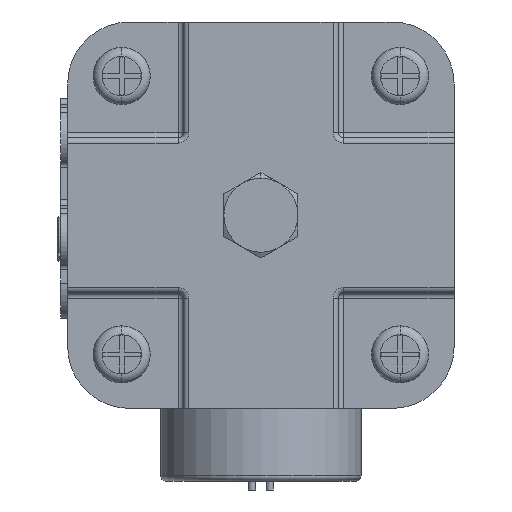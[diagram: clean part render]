
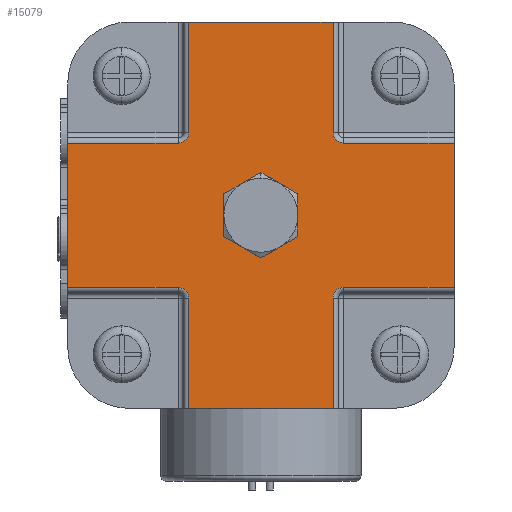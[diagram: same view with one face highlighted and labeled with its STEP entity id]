
A CAD part, front view. The second image highlights one B-rep face of the part: STEP entity #15079.
In plain terms, the highlighted planar face has unit normal (0, -1, 0).
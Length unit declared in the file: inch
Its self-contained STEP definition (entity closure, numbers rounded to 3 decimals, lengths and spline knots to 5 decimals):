
#3364=DIRECTION('',(1.,0.,0.));
#3365=VECTOR('',#3364,0.814);
#3366=CARTESIAN_POINT('',(-0.407,-4.043,1.09));
#3367=LINE('',#3366,#3365);
#3371=DIRECTION('',(0.,0.,-1.));
#3372=VECTOR('',#3371,0.623);
#3373=CARTESIAN_POINT('',(0.407,-4.043,1.09));
#3374=LINE('',#3373,#3372);
#3378=DIRECTION('',(1.,0.,0.));
#3379=VECTOR('',#3378,0.623);
#3380=CARTESIAN_POINT('',(0.467,-4.043,0.407));
#3381=LINE('',#3380,#3379);
#3385=DIRECTION('',(0.,0.,-1.));
#3386=VECTOR('',#3385,0.814);
#3387=CARTESIAN_POINT('',(1.09,-4.043,0.407));
#3388=LINE('',#3387,#3386);
#3392=DIRECTION('',(-1.,0.,0.));
#3393=VECTOR('',#3392,0.623);
#3394=CARTESIAN_POINT('',(1.09,-4.043,-0.407));
#3395=LINE('',#3394,#3393);
#3399=DIRECTION('',(0.,0.,-1.));
#3400=VECTOR('',#3399,0.623);
#3401=CARTESIAN_POINT('',(0.407,-4.043,-0.467));
#3402=LINE('',#3401,#3400);
#3406=DIRECTION('',(-1.,0.,0.));
#3407=VECTOR('',#3406,0.814);
#3408=CARTESIAN_POINT('',(0.407,-4.043,-1.09));
#3409=LINE('',#3408,#3407);
#3413=DIRECTION('',(0.,0.,1.));
#3414=VECTOR('',#3413,0.623);
#3415=CARTESIAN_POINT('',(-0.407,-4.043,-1.09));
#3416=LINE('',#3415,#3414);
#3420=DIRECTION('',(-1.,0.,0.));
#3421=VECTOR('',#3420,0.623);
#3422=CARTESIAN_POINT('',(-0.467,-4.043,-0.407));
#3423=LINE('',#3422,#3421);
#3427=DIRECTION('',(0.,0.,1.));
#3428=VECTOR('',#3427,0.814);
#3429=CARTESIAN_POINT('',(-1.09,-4.043,-0.407));
#3430=LINE('',#3429,#3428);
#3434=DIRECTION('',(1.,0.,0.));
#3435=VECTOR('',#3434,0.623);
#3436=CARTESIAN_POINT('',(-1.09,-4.043,0.407));
#3437=LINE('',#3436,#3435);
#3441=DIRECTION('',(0.,0.,1.));
#3442=VECTOR('',#3441,0.623);
#3443=CARTESIAN_POINT('',(-0.407,-4.043,0.467));
#3444=LINE('',#3443,#3442);
#3485=CARTESIAN_POINT('',(0.467,-4.043,0.467));
#3486=DIRECTION('',(0.,1.,0.));
#3487=DIRECTION('',(0.,0.,-1.));
#3488=AXIS2_PLACEMENT_3D('',#3485,#3486,#3487);
#4084=CARTESIAN_POINT('',(0.467,-4.043,-0.467));
#4085=DIRECTION('',(0.,1.,0.));
#4086=DIRECTION('',(-1.,0.,0.));
#4087=AXIS2_PLACEMENT_3D('',#4084,#4085,#4086);
#4639=CARTESIAN_POINT('',(-0.467,-4.043,-0.467));
#4640=DIRECTION('',(0.,1.,0.));
#4641=DIRECTION('',(0.,0.,1.));
#4642=AXIS2_PLACEMENT_3D('',#4639,#4640,#4641);
#5181=CARTESIAN_POINT('',(-0.467,-4.043,0.467));
#5182=DIRECTION('',(0.,1.,0.));
#5183=DIRECTION('',(1.,0.,0.));
#5184=AXIS2_PLACEMENT_3D('',#5181,#5182,#5183);
#6157=DIRECTION('',(0.,0.,1.));
#6158=VECTOR('',#6157,0.241);
#6159=CARTESIAN_POINT('',(-0.20871,-4.043,-0.1205));
#6160=LINE('',#6159,#6158);
#6218=DIRECTION('',(0.866,0.,0.5));
#6219=VECTOR('',#6218,0.241);
#6220=CARTESIAN_POINT('',(-0.20871,-4.043,0.1205));
#6221=LINE('',#6220,#6219);
#6366=DIRECTION('',(-0.866,0.,0.5));
#6367=VECTOR('',#6366,0.241);
#6368=CARTESIAN_POINT('',(0.,-4.043,-0.241));
#6369=LINE('',#6368,#6367);
#6427=DIRECTION('',(-0.866,0.,-0.5));
#6428=VECTOR('',#6427,0.241);
#6429=CARTESIAN_POINT('',(0.20871,-4.043,-0.1205));
#6430=LINE('',#6429,#6428);
#6488=DIRECTION('',(0.,0.,-1.));
#6489=VECTOR('',#6488,0.241);
#6490=CARTESIAN_POINT('',(0.20871,-4.043,0.1205));
#6491=LINE('',#6490,#6489);
#6549=DIRECTION('',(0.866,0.,-0.5));
#6550=VECTOR('',#6549,0.241);
#6551=CARTESIAN_POINT('',(0.,-4.043,0.241));
#6552=LINE('',#6551,#6550);
#10191=CARTESIAN_POINT('',(-0.407,-4.043,1.09));
#10192=CARTESIAN_POINT('',(0.407,-4.043,1.09));
#10193=VERTEX_POINT('',#10191);
#10194=VERTEX_POINT('',#10192);
#10195=CARTESIAN_POINT('',(-0.20871,-4.043,-0.1205));
#10196=CARTESIAN_POINT('',(-0.20871,-4.043,0.1205));
#10197=VERTEX_POINT('',#10195);
#10198=VERTEX_POINT('',#10196);
#10283=CARTESIAN_POINT('',(1.09,-4.043,0.407));
#10284=CARTESIAN_POINT('',(1.09,-4.043,-0.407));
#10285=VERTEX_POINT('',#10283);
#10286=VERTEX_POINT('',#10284);
#10355=CARTESIAN_POINT('',(0.407,-4.043,-1.09));
#10356=CARTESIAN_POINT('',(-0.407,-4.043,-1.09));
#10357=VERTEX_POINT('',#10355);
#10358=VERTEX_POINT('',#10356);
#10363=CARTESIAN_POINT('',(-1.09,-4.043,-0.407));
#10364=CARTESIAN_POINT('',(-1.09,-4.043,0.407));
#10365=VERTEX_POINT('',#10363);
#10366=VERTEX_POINT('',#10364);
#11093=CARTESIAN_POINT('',(0.407,-4.043,-0.467));
#11094=CARTESIAN_POINT('',(0.467,-4.043,-0.407));
#11095=VERTEX_POINT('',#11093);
#11096=VERTEX_POINT('',#11094);
#11107=CARTESIAN_POINT('',(-0.467,-4.043,-0.407));
#11108=CARTESIAN_POINT('',(-0.407,-4.043,-0.467));
#11109=VERTEX_POINT('',#11107);
#11110=VERTEX_POINT('',#11108);
#11121=CARTESIAN_POINT('',(-0.407,-4.043,0.467));
#11122=CARTESIAN_POINT('',(-0.467,-4.043,0.407));
#11123=VERTEX_POINT('',#11121);
#11124=VERTEX_POINT('',#11122);
#11135=CARTESIAN_POINT('',(0.467,-4.043,0.407));
#11136=CARTESIAN_POINT('',(0.407,-4.043,0.467));
#11137=VERTEX_POINT('',#11135);
#11138=VERTEX_POINT('',#11136);
#11319=CARTESIAN_POINT('',(0.,-4.043,0.241));
#11320=VERTEX_POINT('',#11319);
#11321=CARTESIAN_POINT('',(0.,-4.043,-0.241));
#11322=VERTEX_POINT('',#11321);
#11323=CARTESIAN_POINT('',(0.20871,-4.043,-0.1205));
#11324=VERTEX_POINT('',#11323);
#11325=CARTESIAN_POINT('',(0.20871,-4.043,0.1205));
#11326=VERTEX_POINT('',#11325);
#15028=CARTESIAN_POINT('',(1.09,-4.043,-1.09));
#15029=DIRECTION('',(0.,1.,0.));
#15030=DIRECTION('',(0.,0.,1.));
#15031=AXIS2_PLACEMENT_3D('',#15028,#15029,#15030);
#15032=PLANE('',#15031);
#15033=ORIENTED_EDGE('',*,*,#14950,.T.);
#15035=ORIENTED_EDGE('',*,*,#15034,.T.);
#15037=ORIENTED_EDGE('',*,*,#15036,.F.);
#15039=ORIENTED_EDGE('',*,*,#15038,.T.);
#15041=ORIENTED_EDGE('',*,*,#15040,.T.);
#15043=ORIENTED_EDGE('',*,*,#15042,.T.);
#15045=ORIENTED_EDGE('',*,*,#15044,.F.);
#15047=ORIENTED_EDGE('',*,*,#15046,.T.);
#15049=ORIENTED_EDGE('',*,*,#15048,.T.);
#15051=ORIENTED_EDGE('',*,*,#15050,.T.);
#15053=ORIENTED_EDGE('',*,*,#15052,.F.);
#15055=ORIENTED_EDGE('',*,*,#15054,.T.);
#15057=ORIENTED_EDGE('',*,*,#15056,.T.);
#15059=ORIENTED_EDGE('',*,*,#15058,.T.);
#15061=ORIENTED_EDGE('',*,*,#15060,.F.);
#15062=ORIENTED_EDGE('',*,*,#15008,.T.);
#15063=EDGE_LOOP('',(#15033,#15035,#15037,#15039,#15041,#15043,#15045,#15047,
#15049,#15051,#15053,#15055,#15057,#15059,#15061,#15062));
#15064=FACE_OUTER_BOUND('',#15063,.F.);
#15066=ORIENTED_EDGE('',*,*,#15065,.F.);
#15068=ORIENTED_EDGE('',*,*,#15067,.F.);
#15070=ORIENTED_EDGE('',*,*,#15069,.F.);
#15072=ORIENTED_EDGE('',*,*,#15071,.F.);
#15074=ORIENTED_EDGE('',*,*,#15073,.F.);
#15076=ORIENTED_EDGE('',*,*,#15075,.F.);
#15077=EDGE_LOOP('',(#15066,#15068,#15070,#15072,#15074,#15076));
#15078=FACE_BOUND('',#15077,.F.);
#3489=CIRCLE('',#3488,0.06);
#4088=CIRCLE('',#4087,0.06);
#4643=CIRCLE('',#4642,0.06);
#5185=CIRCLE('',#5184,0.06);
#14950=EDGE_CURVE('',#10193,#10194,#3367,.T.);
#15008=EDGE_CURVE('',#11123,#10193,#3444,.T.);
#15034=EDGE_CURVE('',#10194,#11138,#3374,.T.);
#15036=EDGE_CURVE('',#11137,#11138,#3489,.T.);
#15038=EDGE_CURVE('',#11137,#10285,#3381,.T.);
#15040=EDGE_CURVE('',#10285,#10286,#3388,.T.);
#15042=EDGE_CURVE('',#10286,#11096,#3395,.T.);
#15044=EDGE_CURVE('',#11095,#11096,#4088,.T.);
#15046=EDGE_CURVE('',#11095,#10357,#3402,.T.);
#15048=EDGE_CURVE('',#10357,#10358,#3409,.T.);
#15050=EDGE_CURVE('',#10358,#11110,#3416,.T.);
#15052=EDGE_CURVE('',#11109,#11110,#4643,.T.);
#15054=EDGE_CURVE('',#11109,#10365,#3423,.T.);
#15056=EDGE_CURVE('',#10365,#10366,#3430,.T.);
#15058=EDGE_CURVE('',#10366,#11124,#3437,.T.);
#15060=EDGE_CURVE('',#11123,#11124,#5185,.T.);
#15065=EDGE_CURVE('',#10197,#10198,#6160,.T.);
#15067=EDGE_CURVE('',#11322,#10197,#6369,.T.);
#15069=EDGE_CURVE('',#11324,#11322,#6430,.T.);
#15071=EDGE_CURVE('',#11326,#11324,#6491,.T.);
#15073=EDGE_CURVE('',#11320,#11326,#6552,.T.);
#15075=EDGE_CURVE('',#10198,#11320,#6221,.T.);
#15079=ADVANCED_FACE('',(#15064,#15078),#15032,.F.);
